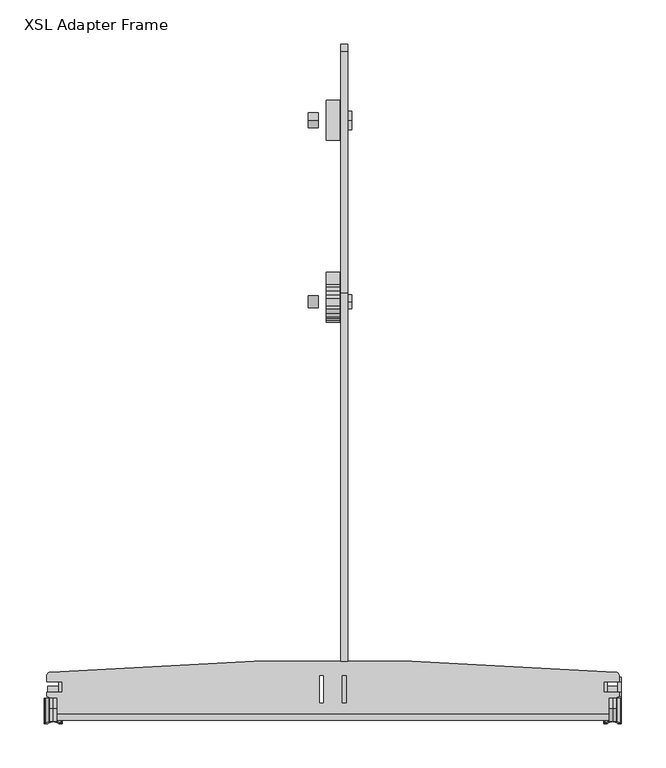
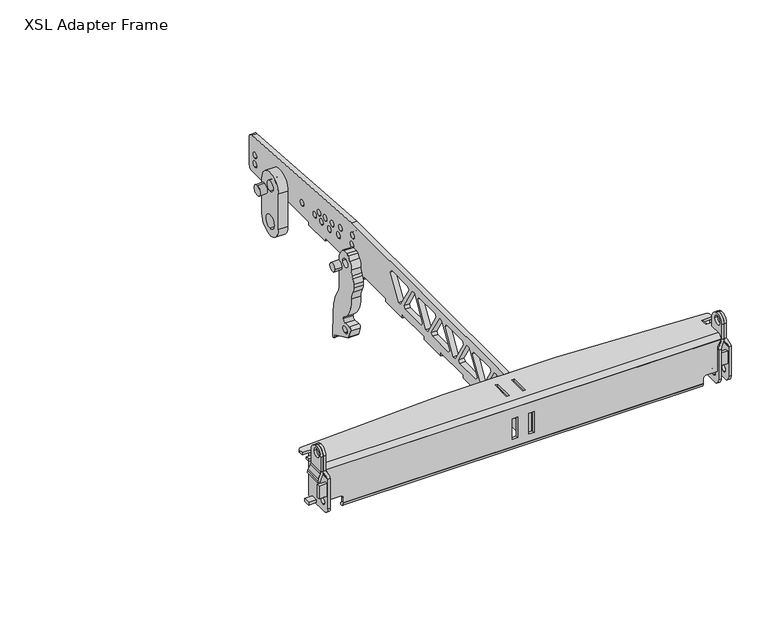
"""IFC4 building model written with IfcOpenShell, lengths in millimetres: proxy geometry, d&b SL-Series XSL SUB Adapter Frame : XSL Adapter Frame."""

from ifc_helpers import new_model, si_unit, point, frame, frame_2d, origin, place, context, project, spatial, polyline, circle_curve, ellipse_curve, trimmed, segment, composite_curve, outline, extrude, source, transform, mapped, element, save
from ifc_brep_helpers import plane_surface, cylinder_surface, revolved_surface, advanced_brep


def xsl_adapter_frame_a1c6265e(model_context):
    return source(origin(), model_context, "Body", "SolidModel", [
        extrude(outline(composite_curve([segment(polyline([(522.1611431, -64.7688422), (522.1611431, -113.8450091)]), True, "CONTINUOUS"), segment(trimmed(circle_curve(frame_2d((539.1610496, -113.7886351)), 17.0), [point((522.1611431, -113.8450091))], [point((525.2422531, -123.5491219))], True, "CARTESIAN"), True, "CONTINUOUS"), segment(trimmed(circle_curve(frame_2d((463.8357977, -166.6100931)), 75.0), [point((525.2422531, -123.5491219))], [point((538.8353854, -166.3613841))], False, "CARTESIAN"), True, "CONTINUOUS"), segment(polyline([(538.8353854, -166.3613841), (538.9661354, -205.7897873)]), True, "CONTINUOUS"), segment(trimmed(circle_curve(frame_2d((537.4661436, -205.7947615)), 1.5), [point((538.9661354, -205.7897873))], [point((535.9661519, -205.7997357))], False, "CARTESIAN"), True, "CONTINUOUS"), segment(trimmed(circle_curve(frame_2d((528.9661904, -205.8229485)), 7.0), [point((535.9661519, -205.7997357))], [point((531.9034639, -199.4690187))], True, "CARTESIAN"), True, "CONTINUOUS"), segment(polyline([(531.9034639, -199.4690187), (497.7396826, -183.6758992)]), True, "CONTINUOUS"), segment(trimmed(circle_curve(frame_2d((499.6279299, -179.59123)), 4.5), [point((497.7396826, -183.6758992))], [point((495.4044402, -181.1443348))], False, "CARTESIAN"), True, "CONTINUOUS"), segment(polyline([(495.4044402, -181.1443348), (490.5514544, -167.9471986)]), True, "CONTINUOUS"), segment(trimmed(circle_curve(frame_2d((493.8363909, -166.7392282)), 3.5), [point((490.5514544, -167.9471986))], [point((494.1773689, -163.2558772))], False, "CARTESIAN"), True, "CONTINUOUS"), segment(trimmed(circle_curve(frame_2d((513.661827, 35.7927497)), 200.0), [point((494.1773689, -163.2558772))], [point((505.6252672, -164.0457193))], True, "CARTESIAN"), True, "CONTINUOUS"), segment(trimmed(circle_curve(frame_2d((505.8121173, -159.3994749)), 4.65), [point((505.6252672, -164.0457193))], [point((510.4620917, -159.384055))], True, "CARTESIAN"), True, "CONTINUOUS"), segment(trimmed(circle_curve(frame_2d((505.8121173, -159.3994749)), 4.65), [point((510.4620917, -159.384055))], [point((509.2296311, -156.2462069))], True, "CARTESIAN"), True, "CONTINUOUS"), segment(trimmed(circle_curve(frame_2d((538.6101743, -116.3972456)), 49.509151), [point((509.2296311, -156.2462069))], [point((489.1613245, -113.9544411))], False, "CARTESIAN"), True, "CONTINUOUS"), segment(trimmed(circle_curve(frame_2d((468.6698234, -112.9421479)), 20.5164899), [point((489.1613245, -113.9544411))], [point((484.8265938, -100.2975788))], True, "CARTESIAN"), True, "CONTINUOUS"), segment(trimmed(circle_curve(frame_2d((498.8870491, -92.0549547)), 16.298382), [point((484.8265938, -100.2975788))], [point((482.5886671, -92.0549547))], False, "CARTESIAN"), True, "CONTINUOUS"), segment(polyline([(482.5886671, -92.0549547), (482.5886671, -85.9058453)]), True, "CONTINUOUS"), segment(trimmed(circle_curve(frame_2d((499.465337, -85.9058453)), 16.8766699), [point((482.5886671, -85.9058453))], [point((484.7514582, -77.6400267))], False, "CARTESIAN"), True, "CONTINUOUS"), segment(polyline([(484.7514582, -77.6400267), (486.8183449, -74.0324992)]), True, "CONTINUOUS"), segment(trimmed(circle_curve(frame_2d((472.5016463, -65.82993)), 16.5), [point((486.8183449, -74.0324992))], [point((489.0015556, -65.775214))], True, "CARTESIAN"), True, "CONTINUOUS"), segment(trimmed(circle_curve(frame_2d((505.7526919, -64.1121958)), 16.8334844), [point((489.0015556, -65.775214))], [point((492.7666259, -53.4010667))], False, "CARTESIAN"), True, "CONTINUOUS"), segment(polyline([(492.7666259, -53.4010667), (497.464977, -47.7048327)]), True, "CONTINUOUS"), segment(trimmed(circle_curve(frame_2d((501.3221897, -50.8863276)), 5.0), [point((497.464977, -47.7048327))], [point((501.3221897, -45.8863276))], False, "CARTESIAN"), True, "CONTINUOUS"), segment(polyline([(501.3221897, -45.8863276), (509.6051649, -45.8863276)]), True, "CONTINUOUS"), segment(trimmed(circle_curve(frame_2d((509.6051649, -50.8863276)), 5.0), [point((509.6051649, -45.8863276))], [point((513.4411924, -47.6793209))], False, "CARTESIAN"), True, "CONTINUOUS"), segment(polyline([(513.4411924, -47.6793209), (517.8898951, -53.00059)]), True, "CONTINUOUS"), segment(trimmed(circle_curve(frame_2d((503.8134235, -64.7688422)), 18.3477196), [point((517.8898951, -53.00059))], [point((522.1611431, -64.7688422))], False, "CARTESIAN"), True, "CONTINUOUS")], self_intersect=False), holes=[composite_curve([segment(trimmed(circle_curve(frame_2d((504.9715342, -175.4592689)), 5.0), [point((504.5627114, -170.4760105))], [point((505.380357, -180.4425272))], True, "CARTESIAN"), True, "CONTINUOUS"), segment(polyline([(505.380357, -180.4425272), (507.3736603, -180.2789981)]), True, "CONTINUOUS"), segment(trimmed(circle_curve(frame_2d((506.9648375, -175.2957398)), 5.0), [point((507.3736603, -180.2789981))], [point((506.5560147, -170.3124814))], True, "CARTESIAN"), True, "CONTINUOUS"), segment(polyline([(506.5560147, -170.3124814), (504.5627114, -170.4760105)]), True, "CONTINUOUS")], self_intersect=False), composite_curve([segment(trimmed(circle_curve(frame_2d((505.4954278, -63.9)), 6.7752341), [point((512.2706619, -63.9))], [point((498.7201938, -63.9))], True, "CARTESIAN"), True, "CONTINUOUS"), segment(trimmed(circle_curve(frame_2d((505.4954278, -63.9)), 6.7752341), [point((498.7201938, -63.9))], [point((512.2706619, -63.9))], True, "CARTESIAN"), True, "CONTINUOUS")], self_intersect=False)]), frame((-7.5, 0.0, 0.0), z_axis=(1.0, 0.0, 0.0), x_axis=(0.0, 1.0, 0.0)), (0.0, 0.0, 1.0), 15.0),
        extrude(outline(composite_curve([segment(polyline([(100.4954278, -9.2), (515.774794, -9.2), (788.0534796, -28.2395804)]), True, "CONTINUOUS"), segment(trimmed(circle_curve(frame_2d((787.4954278, -36.2200928)), 8.0), [point((788.0534796, -28.2395804))], [point((795.4954278, -36.2200928))], False, "CARTESIAN"), True, "CONTINUOUS"), segment(polyline([(795.4954278, -36.2200928), (795.4954278, -79.5)]), True, "CONTINUOUS"), segment(trimmed(circle_curve(frame_2d((787.4954278, -79.5)), 8.0), [point((795.4954278, -79.5))], [point((787.4954278, -87.5))], False, "CARTESIAN"), True, "CONTINUOUS"), segment(polyline([(787.4954278, -87.5), (759.4954278, -87.5), (759.4954278, -83.5), (692.9954278, -83.5), (692.9954278, -78.5), (632.9954278, -78.5), (632.9954278, -83.5), (587.9954278, -83.5), (587.9954278, -78.5), (527.9954278, -78.5), (527.9954278, -83.5), (482.9954278, -83.5), (482.9954278, -78.5), (422.9954278, -78.5), (422.9954278, -83.5), (377.9954278, -83.5), (377.9954278, -78.5), (317.9954278, -78.5), (317.9954278, -83.5), (272.9954278, -83.5), (272.9954278, -78.5), (212.9954278, -78.5), (212.9954278, -83.5), (167.9954278, -83.5), (167.9954278, -78.5), (107.9954278, -78.5), (107.9954278, -83.5), (40.9954278, -83.5), (40.9954278, -13.2), (100.4954278, -13.2), (100.4954278, -9.2)]), True, "CONTINUOUS")], self_intersect=False), holes=[polyline([(298.988688, -60.2952864), (276.7370031, -23.2), (271.7370031, -23.2), (249.4853181, -60.2952864), (252.6083314, -64.2), (295.8656748, -64.2), (298.988688, -60.2952864)]), polyline([(239.4853181, -64.2), (261.7370031, -27.1047136), (258.6139898, -23.2), (215.3566464, -23.2), (212.2336331, -27.1047136), (234.4853181, -64.2), (239.4853181, -64.2)]), polyline([(224.4853181, -60.2952864), (202.2336331, -23.2), (197.2336331, -23.2), (174.7789727, -60.6336624), (178.3453103, -64.2), (221.3623048, -64.2), (224.4853181, -60.2952864)]), polyline([(164.9819482, -64.2), (187.2336331, -27.1047136), (184.1106199, -23.2), (140.8532765, -23.2), (137.7302632, -27.1047136), (159.9819482, -64.2), (164.9819482, -64.2)]), polyline([(308.988688, -64.2), (313.988688, -64.2), (336.240373, -27.1047136), (333.1173597, -23.2), (289.8600163, -23.2), (286.7370031, -27.1047136), (308.988688, -64.2)]), polyline([(373.4920579, -60.2952864), (351.240373, -23.2), (346.240373, -23.2), (323.988688, -60.2952864), (327.1117013, -64.2), (370.3690447, -64.2), (373.4920579, -60.2952864)]), polyline([(383.4920579, -64.2), (388.4920579, -64.2), (410.7437429, -27.1047136), (407.6207296, -23.2), (364.3633862, -23.2), (361.240373, -27.1047136), (383.4920579, -64.2)]), polyline([(122.7302632, -23.2), (100.4785783, -60.2952864), (103.6015915, -64.2), (146.8589349, -64.2), (149.9819482, -60.2952864), (127.7302632, -23.2), (122.7302632, -23.2)]), polyline([(90.4785783, -64.2), (112.7302632, -27.1047136), (109.60725, -23.2), (66.3499066, -23.2), (63.2268933, -27.1047136), (85.4785783, -64.2), (90.4785783, -64.2)]), polyline([(48.2268933, -64.2), (72.355565, -64.2), (75.4785783, -60.2952864), (53.2268933, -23.2), (48.2268933, -23.2), (48.2268933, -64.2)]), composite_curve([segment(trimmed(circle_curve(frame_2d((651.0293359, -58.0)), 4.75), [point((651.0293359, -62.75))], [point((651.0293359, -53.25))], True, "CARTESIAN"), True, "CONTINUOUS"), segment(trimmed(circle_curve(frame_2d((651.0293359, -58.0)), 4.75), [point((651.0293359, -53.25))], [point((651.0293359, -62.75))], True, "CARTESIAN"), True, "CONTINUOUS")], self_intersect=False), composite_curve([segment(trimmed(circle_curve(frame_2d((616.7137327, -56.9749243)), 4.75), [point((616.7137327, -61.7249243))], [point((616.7137327, -52.2249243))], True, "CARTESIAN"), True, "CONTINUOUS"), segment(trimmed(circle_curve(frame_2d((616.7137327, -56.9749243)), 4.75), [point((616.7137327, -52.2249243))], [point((616.7137327, -61.7249243))], True, "CARTESIAN"), True, "CONTINUOUS")], self_intersect=False), composite_curve([segment(trimmed(circle_curve(frame_2d((604.7954278, -46.3)), 4.75), [point((604.7954278, -51.05))], [point((604.7954278, -41.55))], True, "CARTESIAN"), True, "CONTINUOUS"), segment(trimmed(circle_curve(frame_2d((604.7954278, -46.3)), 4.75), [point((604.7954278, -41.55))], [point((604.7954278, -51.05))], True, "CARTESIAN"), True, "CONTINUOUS")], self_intersect=False), composite_curve([segment(trimmed(circle_curve(frame_2d((598.3884097, -57.4956118)), 4.75), [point((598.3884097, -62.2456118))], [point((598.3884097, -52.7456118))], True, "CARTESIAN"), True, "CONTINUOUS"), segment(trimmed(circle_curve(frame_2d((598.3884097, -57.4956118)), 4.75), [point((598.3884097, -52.7456118))], [point((598.3884097, -62.2456118))], True, "CARTESIAN"), True, "CONTINUOUS")], self_intersect=False), composite_curve([segment(trimmed(circle_curve(frame_2d((588.3954278, -45.0)), 4.75), [point((588.3954278, -49.75))], [point((588.3954278, -40.25))], True, "CARTESIAN"), True, "CONTINUOUS"), segment(trimmed(circle_curve(frame_2d((588.3954278, -45.0)), 4.75), [point((588.3954278, -40.25))], [point((588.3954278, -49.75))], True, "CARTESIAN"), True, "CONTINUOUS")], self_intersect=False), composite_curve([segment(trimmed(circle_curve(frame_2d((577.0889911, -56.7735597)), 4.75), [point((577.0889911, -61.5235597))], [point((577.0889911, -52.0235597))], True, "CARTESIAN"), True, "CONTINUOUS"), segment(trimmed(circle_curve(frame_2d((577.0889911, -56.7735597)), 4.75), [point((577.0889911, -52.0235597))], [point((577.0889911, -61.5235597))], True, "CARTESIAN"), True, "CONTINUOUS")], self_intersect=False), composite_curve([segment(trimmed(circle_curve(frame_2d((569.2954278, -42.8)), 4.75), [point((569.2954278, -47.55))], [point((569.2954278, -38.05))], True, "CARTESIAN"), True, "CONTINUOUS"), segment(trimmed(circle_curve(frame_2d((569.2954278, -42.8)), 4.75), [point((569.2954278, -38.05))], [point((569.2954278, -47.55))], True, "CARTESIAN"), True, "CONTINUOUS")], self_intersect=False), composite_curve([segment(trimmed(circle_curve(frame_2d((552.2758045, -51.4682297)), 4.75), [point((552.2758045, -56.2182297))], [point((552.2758045, -46.7182297))], True, "CARTESIAN"), True, "CONTINUOUS"), segment(trimmed(circle_curve(frame_2d((552.2758045, -51.4682297)), 4.75), [point((552.2758045, -46.7182297))], [point((552.2758045, -56.2182297))], True, "CARTESIAN"), True, "CONTINUOUS")], self_intersect=False), composite_curve([segment(trimmed(circle_curve(frame_2d((546.8954278, -36.4)), 4.75), [point((546.8954278, -41.15))], [point((546.8954278, -31.65))], True, "CARTESIAN"), True, "CONTINUOUS"), segment(trimmed(circle_curve(frame_2d((546.8954278, -36.4)), 4.75), [point((546.8954278, -31.65))], [point((546.8954278, -41.15))], True, "CARTESIAN"), True, "CONTINUOUS")], self_intersect=False), composite_curve([segment(trimmed(circle_curve(frame_2d((513.8954278, -29.2)), 4.75), [point((513.8954278, -33.95))], [point((513.8954278, -24.45))], True, "CARTESIAN"), True, "CONTINUOUS"), segment(trimmed(circle_curve(frame_2d((513.8954278, -29.2)), 4.75), [point((513.8954278, -24.45))], [point((513.8954278, -33.95))], True, "CARTESIAN"), True, "CONTINUOUS")], self_intersect=False), composite_curve([segment(trimmed(circle_curve(frame_2d((515.6095359, -45.1079173)), 4.75), [point((515.6095359, -49.8579173))], [point((515.6095359, -40.3579173))], True, "CARTESIAN"), True, "CONTINUOUS"), segment(trimmed(circle_curve(frame_2d((515.6095359, -45.1079173)), 4.75), [point((515.6095359, -40.3579173))], [point((515.6095359, -49.8579173))], True, "CARTESIAN"), True, "CONTINUOUS")], self_intersect=False), composite_curve([segment(trimmed(circle_curve(frame_2d((779.4954278, -57.0)), 4.75), [point((779.4954278, -61.75))], [point((779.4954278, -52.25))], True, "CARTESIAN"), True, "CONTINUOUS"), segment(trimmed(circle_curve(frame_2d((779.4954278, -57.0)), 4.75), [point((779.4954278, -52.25))], [point((779.4954278, -61.75))], True, "CARTESIAN"), True, "CONTINUOUS")], self_intersect=False), composite_curve([segment(trimmed(circle_curve(frame_2d((779.4954278, -71.35)), 4.75), [point((779.4954278, -76.1))], [point((779.4954278, -66.6))], True, "CARTESIAN"), True, "CONTINUOUS"), segment(trimmed(circle_curve(frame_2d((779.4954278, -71.35)), 4.75), [point((779.4954278, -66.6))], [point((779.4954278, -76.1))], True, "CARTESIAN"), True, "CONTINUOUS")], self_intersect=False)]), frame((8.75, 0.0, 0.0), z_axis=(1.0, 0.0, 0.0), x_axis=(0.0, 1.0, 0.0)), (0.0, 0.0, 1.0), 8.0),
        extrude(outline(composite_curve([segment(trimmed(circle_curve(frame_2d((709.9954278, -60.0)), 8.25), [point((709.9954278, -68.25))], [point((709.9954278, -51.75))], False, "CARTESIAN"), True, "CONTINUOUS"), segment(trimmed(circle_curve(frame_2d((709.9954278, -60.0)), 8.25), [point((709.9954278, -51.75))], [point((709.9954278, -68.25))], False, "CARTESIAN"), True, "CONTINUOUS")], self_intersect=False)), frame((-27.75, 0.0, 0.0), z_axis=(1.0, 0.0, 0.0), x_axis=(0.0, 1.0, 0.0)), (0.0, 0.0, 1.0), 11.0),
        extrude(outline(composite_curve([segment(trimmed(circle_curve(frame_2d((505.4954278, -63.9)), 6.8224623), [point((498.6729655, -63.9))], [point((512.3178901, -63.9))], False, "CARTESIAN"), True, "CONTINUOUS"), segment(trimmed(circle_curve(frame_2d((505.4954278, -63.9)), 6.8224623), [point((512.3178901, -63.9))], [point((498.6729655, -63.9))], False, "CARTESIAN"), True, "CONTINUOUS")], self_intersect=False)), frame((-27.75, 0.0, 0.0), z_axis=(1.0, 0.0, 0.0), x_axis=(0.0, 1.0, 0.0)), (0.0, 0.0, 1.0), 11.0),
        extrude(outline(composite_curve([segment(trimmed(circle_curve(frame_2d((709.9954278, -60.0)), 10.5), [point((709.9954278, -70.5))], [point((709.9954278, -49.5))], False, "CARTESIAN"), True, "CONTINUOUS"), segment(trimmed(circle_curve(frame_2d((709.9954278, -60.0)), 10.5), [point((709.9954278, -49.5))], [point((709.9954278, -70.5))], False, "CARTESIAN"), True, "CONTINUOUS")], self_intersect=False)), frame((16.75, 0.0, 0.0), z_axis=(1.0, 0.0, 0.0), x_axis=(0.0, 1.0, 0.0)), (0.0, 0.0, 1.0), 4.5205517),
        extrude(outline(composite_curve([segment(trimmed(circle_curve(frame_2d((505.4954278, -63.9)), 7.9916388), [point((505.4954278, -71.8916388))], [point((505.4954278, -55.9083612))], False, "CARTESIAN"), True, "CONTINUOUS"), segment(trimmed(circle_curve(frame_2d((505.4954278, -63.9)), 7.9916388), [point((505.4954278, -55.9083612))], [point((505.4954278, -71.8916388))], False, "CARTESIAN"), True, "CONTINUOUS")], self_intersect=False)), frame((16.75, 0.0, 0.0), z_axis=(1.0, 0.0, 0.0), x_axis=(0.0, 1.0, 0.0)), (0.0, 0.0, 1.0), 4.5205517),
        extrude(outline(composite_curve([segment(polyline([(33.9954278, -80.5), (37.9954278, -80.5)]), True, "CONTINUOUS"), segment(trimmed(circle_curve(frame_2d((41.0178597, -80.5)), 3.0224319), [point((37.9954278, -80.5))], [point((41.0178597, -83.5224319))], True, "CARTESIAN"), True, "CONTINUOUS"), segment(polyline([(41.0178597, -83.5224319), (41.0178597, -87.5224319)]), True, "CONTINUOUS"), segment(trimmed(circle_curve(frame_2d((41.0178597, -80.5)), 7.0224319), [point((41.0178597, -87.5224319))], [point((33.9954278, -80.5))], False, "CARTESIAN"), True, "CONTINUOUS")], self_intersect=False)), frame((-283.0, 0.0, 0.0), z_axis=(1.0, 0.0, 0.0), x_axis=(0.0, 1.0, 0.0)), (0.0, 0.0, 1.0), 566.0),
        extrude(outline(composite_curve([segment(polyline([(-16.2224319, 310.4998), (-16.2224319, -310.4998)]), True, "CONTINUOUS"), segment(trimmed(circle_curve(frame_2d((-16.2224319, -306.4998)), 4.0), [point((-16.2224319, -310.4998))], [point((-18.2224319, -309.9639016))], False, "CARTESIAN"), True, "CONTINUOUS"), segment(polyline([(-18.2224319, -309.9639016), (-25.7412266, -305.6229234)]), True, "CONTINUOUS"), segment(trimmed(circle_curve(frame_2d((-28.0660086, -309.6495639)), 4.6495639), [point((-25.7412266, -305.6229234))], [point((-28.0660086, -305.0))], True, "CARTESIAN"), True, "CONTINUOUS"), segment(polyline([(-28.0660086, -305.0), (-67.5, -305.0), (-67.5, -288.0)]), True, "CONTINUOUS"), segment(trimmed(circle_curve(frame_2d((-72.5, -288.0)), 5.0), [point((-67.5, -288.0))], [point((-72.5, -283.0))], True, "CARTESIAN"), True, "CONTINUOUS"), segment(polyline([(-72.5, -283.0), (-80.5, -283.0), (-80.5, 283.0), (-72.5, 283.0)]), True, "CONTINUOUS"), segment(trimmed(circle_curve(frame_2d((-72.5, 288.0)), 5.0), [point((-72.5, 283.0))], [point((-67.5, 288.0))], True, "CARTESIAN"), True, "CONTINUOUS"), segment(polyline([(-67.5, 288.0), (-67.5, 305.0), (-28.0660086, 305.0)]), True, "CONTINUOUS"), segment(trimmed(circle_curve(frame_2d((-28.0660086, 309.6495639)), 4.6495639), [point((-28.0660086, 305.0))], [point((-25.7412266, 305.6229234))], True, "CARTESIAN"), True, "CONTINUOUS"), segment(polyline([(-25.7412266, 305.6229234), (-18.2224319, 309.9639016)]), True, "CONTINUOUS"), segment(trimmed(circle_curve(frame_2d((-16.2224319, 306.4998)), 4.0), [point((-18.2224319, 309.9639016))], [point((-16.2224319, 310.4998))], False, "CARTESIAN"), True, "CONTINUOUS")], self_intersect=False), holes=[polyline([(-33.7, -8.5), (-68.0, -8.5), (-68.0, -17.0), (-33.7, -17.0), (-33.7, -8.5)]), polyline([(-33.7, 17.0), (-68.0, 17.0), (-68.0, 8.5), (-33.7, 8.5), (-33.7, 17.0)])]), frame((0.0, 33.9954278, 0.0), z_axis=(0.0, 1.0, 0.0), x_axis=(0.0, 0.0, 1.0)), (0.0, 0.0, 1.0), 4.0),
        advanced_brep(
        [(309.0, 30.4954278, -30.2320508), (310.3811978, 31.2292248, -26.5), (313.7942286, 32.3915541, -20.5884573), (315.0002, 33.1954278, -16.5), (311.0, 33.1954278, -16.5), (310.330127, 32.7847947, -18.5884573), (306.5733203, 31.491841, -25.1643487), (305.4838971, 30.9336589, -28.0032321), (305.0, 30.4954278, -30.2320508), (309.0, 59.0954278, -30.2320508), (305.0, 59.0954278, -30.2320508), (305.4838971, 59.0954278, -28.0032321), (306.5733203, 59.0954278, -25.1643487), (310.330127, 59.0954278, -18.5884573), (311.0, 59.0954278, -16.5), (315.0002, 59.0954278, -16.5), (313.7942286, 59.0954278, -20.5884573), (310.3811978, 59.0954278, -26.5)],
        [
            (0, 1),
            (1, 2),
            (2, 3, ellipse_curve(frame((305.9250899, 33.2848492, -16.0452079), z_axis=(0.0, -0.9812132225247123, 0.19292644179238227), x_axis=(0.0, -0.19292644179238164, -0.9812132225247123)), 9.2604732, 9.0864987)),
            (3, 4),
            (4, 5, ellipse_curve(frame((305.7335982, 33.301119, -15.9624604), z_axis=(0.0, 0.9812132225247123, -0.19292644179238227), x_axis=(0.0, 0.19292644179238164, 0.9812132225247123)), 5.3951208, 5.2937639)),
            (5, 6),
            (6, 7, ellipse_curve(frame((315.2562326, 30.5164966, -30.1248964), z_axis=(0.0, -0.9812132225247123, 0.19292644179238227), x_axis=(0.0, -0.19292644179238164, -0.9812132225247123)), 10.1914648, 10.0)),
            (7, 8),
            (8, 0),
            (9, 10),
            (10, 11),
            (11, 12, circle_curve(frame((315.2562326, 59.0954278, -30.1248964), z_axis=(0.0, 1.0, 0.0), x_axis=(1.0, 0.0, 0.0)), 10.0)),
            (12, 13),
            (13, 14, circle_curve(frame((305.7335982, 59.0954278, -15.9624604), z_axis=(0.0, -1.0, 0.0), x_axis=(1.0, 0.0, 0.0)), 5.2937639)),
            (14, 15),
            (15, 16, circle_curve(frame((305.9250899, 59.0954278, -16.0452079), z_axis=(0.0, 1.0, 0.0), x_axis=(1.0, 0.0, 0.0)), 9.0864987)),
            (16, 17),
            (17, 9),
            (17, 1),
            (0, 9),
            (16, 2),
            (15, 3),
            (13, 5),
            (4, 14),
            (12, 6),
            (10, 8),
            (7, 11),
        ],
        [
            plane_surface(frame((325.0, 30.4954278, -30.2320508), z_axis=(0.0, -0.9812132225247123, 0.19292644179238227), x_axis=(-1.0, 0.0, 0.0))),
            plane_surface(frame((310.3811978, 59.0954278, -26.5), z_axis=(0.0, 1.0, 0.0), x_axis=(-0.34708382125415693, 0.0, -0.9378341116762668))),
            plane_surface(frame((309.0, 30.4954278, -30.2320508), z_axis=(0.9378341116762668, 0.0, -0.34708382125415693), x_axis=(0.0, 1.0, 0.0))),
            plane_surface(frame((310.3811978, 30.4954278, -26.5), z_axis=(0.866025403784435, 0.0, -0.5000000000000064), x_axis=(0.0, 1.0, 0.0))),
            cylinder_surface(frame((305.9250899, 59.0954278, -16.0452079), z_axis=(0.0, -1.0, 0.0), x_axis=(1.0, 0.0, 0.0)), 9.0864987),
            revolved_surface(polyline([(311.0273621, 59.0954278, -15.9624604), (311.0273621, 32.26025754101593, -15.9624604)]), (305.7335982, 59.0954278, -15.9624604), (0.0, 1.0, 0.0)),
            plane_surface(frame((310.330127, 30.4954278, -18.5884573), z_axis=(-0.8682912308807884, 0.0, 0.49605477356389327), x_axis=(0.0, 1.0, 0.0))),
            plane_surface(frame((305.4838971, 30.4954278, -28.0032321), z_axis=(-0.9772335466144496, 0.0, 0.21216643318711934), x_axis=(0.0, 1.0, 0.0))),
            plane_surface(frame((305.0, 30.4954278, -30.2320508), z_axis=(0.0, 0.0, -1.0), x_axis=(0.0, 1.0, 0.0))),
            cylinder_surface(frame((315.2562326, 59.0954278, -30.1248964), z_axis=(0.0, -1.0, 0.0), x_axis=(1.0, 0.0, 0.0)), 10.0),
            plane_surface(frame((315.0002, 30.4954278, -16.5), z_axis=(0.0, 0.0, 1.0), x_axis=(0.0, 1.0, 0.0))),
        ],
        [
            (0, [[1, 2, 3, 4, 5, 6, 7, 8, 9]]),
            (1, [[10, 11, 12, 13, 14, 15, 16, 17, 18]]),
            (2, [[-18, 19, -1, 20]]),
            (3, [[-17, 21, -2, -19]]),
            (4, [[-16, 22, -3, -21]]),
            (5, [[-14, 23, -5, 24]]),
            (6, [[-13, 25, -6, -23]]),
            (7, [[-11, 26, -8, 27]]),
            (8, [[-10, -20, -9, -26]]),
            (9, [[-12, -27, -7, -25]]),
            (10, [[-15, -24, -4, -22]]),
        ],
    ),
        advanced_brep(
        [(319.6188022, 31.2292248, -26.5), (321.0, 30.4954278, -30.2320508), (325.0, 30.4954278, -30.2320508), (324.5161029, 30.9336589, -28.0032321), (323.4266797, 31.491841, -25.1643487), (319.669873, 32.7847947, -18.5884573), (319.0, 33.1954278, -16.5), (314.9998, 33.1954278, -16.5), (316.2057714, 32.3915541, -20.5884573), (321.0, 59.0954278, -30.2320508), (319.6188022, 59.0954278, -26.5), (316.2057714, 59.0954278, -20.5884573), (314.9998, 59.0954278, -16.5), (319.0, 59.0954278, -16.5), (319.669873, 59.0954278, -18.5884573), (323.4266797, 59.0954278, -25.1643487), (324.5161029, 59.0954278, -28.0032321), (325.0, 59.0954278, -30.2320508)],
        [
            (0, 1),
            (1, 2),
            (2, 3),
            (3, 4, ellipse_curve(frame((314.7437674, 30.5164966, -30.1248964), z_axis=(0.0, -0.9812132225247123, 0.19292644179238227), x_axis=(0.0, -0.19292644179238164, -0.9812132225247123)), 10.1914648, 10.0)),
            (4, 5),
            (5, 6, ellipse_curve(frame((324.2664018, 33.301119, -15.9624604), z_axis=(0.0, 0.9812132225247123, -0.19292644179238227), x_axis=(0.0, 0.19292644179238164, 0.9812132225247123)), 5.3951208, 5.2937639)),
            (6, 7),
            (7, 8, ellipse_curve(frame((324.0749101, 33.2848492, -16.0452079), z_axis=(0.0, -0.9812132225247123, 0.19292644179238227), x_axis=(0.0, -0.19292644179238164, -0.9812132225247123)), 9.2604732, 9.0864987)),
            (8, 0),
            (9, 10),
            (10, 11),
            (11, 12, circle_curve(frame((324.0749101, 59.0954278, -16.0452079), z_axis=(0.0, 1.0, 0.0), x_axis=(-1.0, 0.0, 0.0)), 9.0864987)),
            (12, 13),
            (13, 14, circle_curve(frame((324.2664018, 59.0954278, -15.9624604), z_axis=(0.0, -1.0, 0.0), x_axis=(-1.0, 0.0, 0.0)), 5.2937639)),
            (14, 15),
            (15, 16, circle_curve(frame((314.7437674, 59.0954278, -30.1248964), z_axis=(0.0, 1.0, 0.0), x_axis=(-1.0, 0.0, 0.0)), 10.0)),
            (16, 17),
            (17, 9),
            (9, 1),
            (0, 10),
            (8, 11),
            (7, 12),
            (13, 6),
            (5, 14),
            (4, 15),
            (16, 3),
            (2, 17),
        ],
        [
            plane_surface(frame((325.0, 30.4954278, -30.2320508), z_axis=(0.0, -0.9812132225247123, 0.19292644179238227), x_axis=(-1.0, 0.0, 0.0))),
            plane_surface(frame((325.0, 59.0954278, -30.2320508), z_axis=(0.0, 1.0, 0.0), x_axis=(-1.0, 0.0, 0.0))),
            plane_surface(frame((319.6188022, 30.4954278, -26.5), z_axis=(-0.9378341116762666, 0.0, -0.34708382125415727), x_axis=(0.0, 1.0, 0.0))),
            plane_surface(frame((316.2057714, 30.4954278, -20.5884573), z_axis=(-0.8660254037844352, 0.0, -0.5000000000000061), x_axis=(0.0, 1.0, 0.0))),
            cylinder_surface(frame((324.0749101, 59.0954278, -16.0452079), z_axis=(0.0, -1.0, 0.0), x_axis=(-1.0, 0.0, 0.0)), 9.0864987),
            revolved_surface(polyline([(318.9726379, 59.0954278, -15.9624604), (318.9726379, 32.26025754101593, -15.9624604)]), (324.2664018, 59.0954278, -15.9624604), (0.0, 1.0, 0.0)),
            plane_surface(frame((323.4266797, 30.4954278, -25.1643487), z_axis=(0.8682912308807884, 0.0, 0.49605477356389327), x_axis=(0.0, 1.0, 0.0))),
            plane_surface(frame((325.0, 30.4954278, -30.2320508), z_axis=(0.9772335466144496, 0.0, 0.21216643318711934), x_axis=(0.0, 1.0, 0.0))),
            plane_surface(frame((321.0, 30.4954278, -30.2320508), z_axis=(0.0, 0.0, -1.0), x_axis=(0.0, 1.0, 0.0))),
            cylinder_surface(frame((314.7437674, 59.0954278, -30.1248964), z_axis=(0.0, -1.0, 0.0), x_axis=(-1.0, 0.0, 0.0)), 10.0),
            plane_surface(frame((319.0, 30.4954278, -16.5), z_axis=(0.0, 0.0, 1.0), x_axis=(0.0, 1.0, 0.0))),
        ],
        [
            (0, [[1, 2, 3, 4, 5, 6, 7, 8, 9]]),
            (1, [[10, 11, 12, 13, 14, 15, 16, 17, 18]]),
            (2, [[-10, 19, -1, 20]]),
            (3, [[-11, -20, -9, 21]]),
            (4, [[-12, -21, -8, 22]]),
            (5, [[-14, 23, -6, 24]]),
            (6, [[-15, -24, -5, 25]]),
            (7, [[-17, 26, -3, 27]]),
            (8, [[-18, -27, -2, -19]]),
            (9, [[-16, -25, -4, -26]]),
            (10, [[-13, -22, -7, -23]]),
        ],
    ),
        extrude(outline(polyline([(308.9998, 33.7454278), (308.9998, 38.2454278), (321.0, 38.2454278), (321.0, 33.7454278), (308.9998, 33.7454278)])), frame((0.0, 0.0, -60.25), z_axis=(0.0, 0.0, 1.0), x_axis=(1.0, 0.0, 0.0)), (0.0, 0.0, 1.0), 21.05),
        extrude(outline(polyline([(308.9998, 61.7454278), (308.9998, 72.4954278), (321.0, 72.4954278), (321.0, 61.7454278), (308.9998, 61.7454278)])), frame((0.0, 0.0, -87.75), z_axis=(0.0, 0.0, 1.0), x_axis=(1.0, 0.0, 0.0)), (0.0, 0.0, 1.0), 4.5),
        extrude(outline(composite_curve([segment(polyline([(30.4954278, -79.5), (30.4954278, -30.2320508), (59.0954278, -30.2320508), (59.0954278, -31.5)]), True, "CONTINUOUS"), segment(trimmed(circle_curve(frame_2d((60.0954278, -31.5)), 1.0), [point((59.0954278, -31.5))], [point((61.0954278, -31.5))], True, "CARTESIAN"), True, "CONTINUOUS"), segment(polyline([(61.0954278, -31.5), (61.0954278, -13.2), (66.0954278, -13.2), (66.0954278, -11.2), (77.0954278, -11.2), (77.0954278, -13.2), (82.4954278, -13.2), (82.4954278, -87.5950124)]), True, "CONTINUOUS"), segment(trimmed(circle_curve(frame_2d((81.4898861, -87.5950124)), 1.0055417), [point((82.4954278, -87.5950124))], [point((81.4898861, -88.6005542))], False, "CARTESIAN"), True, "CONTINUOUS"), segment(polyline([(81.4898861, -88.6005542), (72.4954278, -89.5), (40.4954278, -89.5)]), True, "CONTINUOUS"), segment(trimmed(circle_curve(frame_2d((40.4954278, -79.5)), 10.0), [point((40.4954278, -89.5))], [point((30.4954278, -79.5))], False, "CARTESIAN"), True, "CONTINUOUS")], self_intersect=False), holes=[polyline([(33.7454278, -39.2), (33.7454278, -60.25), (38.2454278, -60.25), (38.2454278, -39.2), (33.7454278, -39.2)]), polyline([(61.7454278, -83.25), (61.7454278, -87.75), (72.4954278, -87.75), (72.4954278, -83.25), (61.7454278, -83.25)]), composite_curve([segment(trimmed(circle_curve(frame_2d((43.9954278, -74.5)), 4.65), [point((43.9954278, -79.15))], [point((43.9954278, -69.85))], True, "CARTESIAN"), True, "CONTINUOUS"), segment(trimmed(circle_curve(frame_2d((43.9954278, -74.5)), 4.65), [point((43.9954278, -69.85))], [point((43.9954278, -79.15))], True, "CARTESIAN"), True, "CONTINUOUS")], self_intersect=False)]), frame((305.0, 0.0, 0.0), z_axis=(1.0, 0.0, 0.0), x_axis=(0.0, 1.0, 0.0)), (0.0, 0.0, 1.0), 4.0),
        extrude(outline(composite_curve([segment(polyline([(59.0954278, 5.2), (59.0954278, -16.5), (33.1954278, -16.5), (33.1954278, 8.4787193)]), True, "CONTINUOUS"), segment(trimmed(circle_curve(frame_2d((44.8954278, 8.4787193)), 11.7), [point((33.1954278, 8.4787193))], [point((47.9924867, 19.7613708))], False, "CARTESIAN"), True, "CONTINUOUS"), segment(trimmed(circle_curve(frame_2d((43.9954278, 5.2)), 15.1), [point((47.9924867, 19.7613708))], [point((59.0954278, 5.2))], False, "CARTESIAN"), True, "CONTINUOUS")], self_intersect=False), holes=[composite_curve([segment(trimmed(circle_curve(frame_2d((43.9954278, 9.5)), 6.9036339), [point((50.8990617, 9.5))], [point((37.091794, 9.5))], True, "CARTESIAN"), True, "CONTINUOUS"), segment(trimmed(circle_curve(frame_2d((43.9954278, 9.5)), 6.9036339), [point((37.091794, 9.5))], [point((50.8990617, 9.5))], True, "CARTESIAN"), True, "CONTINUOUS")], self_intersect=False)]), frame((311.0, 0.0, 0.0), z_axis=(1.0, 0.0, 0.0), x_axis=(0.0, 1.0, 0.0)), (0.0, 0.0, 1.0), 4.0),
        extrude(outline(composite_curve([segment(polyline([(59.0954278, 5.2), (59.0954278, -16.5), (33.1954278, -16.5), (33.1954278, 8.4787193)]), True, "CONTINUOUS"), segment(trimmed(circle_curve(frame_2d((44.8954278, 8.4787193)), 11.7), [point((33.1954278, 8.4787193))], [point((47.9924867, 19.7613708))], False, "CARTESIAN"), True, "CONTINUOUS"), segment(trimmed(circle_curve(frame_2d((43.9954278, 5.2)), 15.1), [point((47.9924867, 19.7613708))], [point((59.0954278, 5.2))], False, "CARTESIAN"), True, "CONTINUOUS")], self_intersect=False), holes=[composite_curve([segment(trimmed(circle_curve(frame_2d((43.9954278, 9.5)), 6.9036339), [point((50.8990617, 9.5))], [point((37.091794, 9.5))], True, "CARTESIAN"), True, "CONTINUOUS"), segment(trimmed(circle_curve(frame_2d((43.9954278, 9.5)), 6.9036339), [point((37.091794, 9.5))], [point((50.8990617, 9.5))], True, "CARTESIAN"), True, "CONTINUOUS")], self_intersect=False)]), frame((315.0, 0.0, 0.0), z_axis=(1.0, 0.0, 0.0), x_axis=(0.0, 1.0, 0.0)), (0.0, 0.0, 1.0), 4.0),
        extrude(outline(composite_curve([segment(polyline([(30.4954278, -79.5), (30.4954278, -30.2320508), (59.0954278, -30.2320508), (59.0954278, -31.5)]), True, "CONTINUOUS"), segment(trimmed(circle_curve(frame_2d((60.0954278, -31.5)), 1.0), [point((59.0954278, -31.5))], [point((61.0954278, -31.5))], True, "CARTESIAN"), True, "CONTINUOUS"), segment(polyline([(61.0954278, -31.5), (61.0954278, -13.2), (66.0954278, -13.2), (66.0954278, -11.2), (77.0954278, -11.2), (77.0954278, -13.2), (82.4954278, -13.2), (82.4954278, -87.5950124)]), True, "CONTINUOUS"), segment(trimmed(circle_curve(frame_2d((81.4898861, -87.5950124)), 1.0055417), [point((82.4954278, -87.5950124))], [point((81.4898861, -88.6005542))], False, "CARTESIAN"), True, "CONTINUOUS"), segment(polyline([(81.4898861, -88.6005542), (72.4954278, -89.5), (40.4954278, -89.5)]), True, "CONTINUOUS"), segment(trimmed(circle_curve(frame_2d((40.4954278, -79.5)), 10.0), [point((40.4954278, -89.5))], [point((30.4954278, -79.5))], False, "CARTESIAN"), True, "CONTINUOUS")], self_intersect=False), holes=[polyline([(33.7454278, -39.2), (33.7454278, -60.25), (38.2454278, -60.25), (38.2454278, -39.2), (33.7454278, -39.2)]), polyline([(61.7454278, -83.25), (61.7454278, -87.75), (72.4954278, -87.75), (72.4954278, -83.25), (61.7454278, -83.25)]), composite_curve([segment(trimmed(circle_curve(frame_2d((43.9954278, -74.5)), 4.65), [point((43.9954278, -79.15))], [point((43.9954278, -69.85))], True, "CARTESIAN"), True, "CONTINUOUS"), segment(trimmed(circle_curve(frame_2d((43.9954278, -74.5)), 4.65), [point((43.9954278, -69.85))], [point((43.9954278, -79.15))], True, "CARTESIAN"), True, "CONTINUOUS")], self_intersect=False)]), frame((321.0, 0.0, 0.0), z_axis=(1.0, 0.0, 0.0), x_axis=(0.0, 1.0, 0.0)), (0.0, 0.0, 1.0), 4.0),
        extrude(outline(composite_curve([segment(trimmed(circle_curve(frame_2d((40.9954278, -16.2224319)), 7.0224319), [point((33.972996, -16.2224319))], [point((40.9954278, -9.2))], False, "CARTESIAN"), True, "CONTINUOUS"), segment(polyline([(40.9954278, -9.2), (40.9954278, -13.2)]), True, "CONTINUOUS"), segment(trimmed(circle_curve(frame_2d((40.9954278, -16.2224319)), 3.0224319), [point((40.9954278, -13.2))], [point((37.972996, -16.2224319))], True, "CARTESIAN"), True, "CONTINUOUS"), segment(polyline([(37.972996, -16.2224319), (33.972996, -16.2224319)]), True, "CONTINUOUS")], self_intersect=False)), frame((-310.4998, 0.0, 0.0), z_axis=(1.0, 0.0, 0.0), x_axis=(0.0, 1.0, 0.0)), (0.0, 0.0, 1.0), 620.9998),
        extrude(outline(composite_curve([segment(trimmed(circle_curve(frame_2d((317.8, 83.7801172)), 4.7), [point((318.045979, 88.473676))], [point((322.5, 83.7801172))], False, "CARTESIAN"), True, "CONTINUOUS"), segment(polyline([(322.5, 83.7801172), (322.5, 77.3454278), (304.9998, 77.3454278), (304.9998, 65.8454278), (322.5, 65.8454278), (322.5, 61.0954278), (319.0, 59.3454278), (310.4998, 59.3454278), (310.4998, 40.9954278), (-310.4998, 40.9954278), (-310.4998, 59.3454278), (-319.0, 59.3454278), (-322.5, 61.0954278), (-322.5, 65.8454278), (-304.9998, 65.8454278), (-304.9998, 77.3454278), (-322.5, 77.3454278), (-322.5, 83.7801172)]), True, "CONTINUOUS"), segment(trimmed(circle_curve(frame_2d((-317.8, 83.7801172)), 4.7), [point((-322.5, 83.7801172))], [point((-318.045979, 88.473676))], False, "CARTESIAN"), True, "CONTINUOUS"), segment(polyline([(-318.045979, 88.473676), (-88.6572894, 100.4954278), (88.6572894, 100.4954278), (318.045979, 88.473676)]), True, "CONTINUOUS")], self_intersect=False), holes=[polyline([(-10.75, 84.4954278), (-14.75, 84.4954278), (-14.75, 53.9954278), (-10.75, 53.9954278), (-10.75, 84.4954278)]), polyline([(14.75, 84.4954278), (10.75, 84.4954278), (10.75, 53.9954278), (14.75, 53.9954278), (14.75, 84.4954278)])]), frame((0.0, 0.0, -13.2), z_axis=(0.0, 0.0, 1.0), x_axis=(1.0, 0.0, 0.0)), (0.0, 0.0, 1.0), 4.0),
        extrude(outline(polyline([(-308.9998, 38.2454278), (-308.9998, 33.7454278), (-321.0, 33.7454278), (-321.0, 38.2454278), (-308.9998, 38.2454278)])), frame((0.0, 0.0, -60.25), z_axis=(0.0, 0.0, 1.0), x_axis=(1.0, 0.0, 0.0)), (0.0, 0.0, 1.0), 21.05),
        extrude(outline(polyline([(-308.9998, 72.4954278), (-308.9998, 61.7454278), (-321.0, 61.7454278), (-321.0, 72.4954278), (-308.9998, 72.4954278)])), frame((0.0, 0.0, -87.75), z_axis=(0.0, 0.0, 1.0), x_axis=(1.0, 0.0, 0.0)), (0.0, 0.0, 1.0), 4.5),
        advanced_brep(
        [(-310.3811978, 31.2292248, -26.5), (-309.0, 30.4954278, -30.2320508), (-305.0, 30.4954278, -30.2320508), (-305.4838971, 30.9336589, -28.0032321), (-306.5733203, 31.491841, -25.1643487), (-310.330127, 32.7847947, -18.5884573), (-311.0, 33.1954278, -16.5), (-315.0002, 33.1954278, -16.5), (-313.7942286, 32.3915541, -20.5884573), (-309.0, 59.0954278, -30.2320508), (-310.3811978, 59.0954278, -26.5), (-313.7942286, 59.0954278, -20.5884573), (-315.0002, 59.0954278, -16.5), (-311.0, 59.0954278, -16.5), (-310.330127, 59.0954278, -18.5884573), (-306.5733203, 59.0954278, -25.1643487), (-305.4838971, 59.0954278, -28.0032321), (-305.0, 59.0954278, -30.2320508)],
        [
            (0, 1),
            (1, 2),
            (2, 3),
            (3, 4, ellipse_curve(frame((-315.2562326, 30.5164966, -30.1248964), z_axis=(0.0, -0.9812132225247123, 0.19292644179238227), x_axis=(0.0, -0.19292644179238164, -0.9812132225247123)), 10.1914648, 10.0)),
            (4, 5),
            (5, 6, ellipse_curve(frame((-305.7335982, 33.301119, -15.9624604), z_axis=(0.0, 0.9812132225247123, -0.19292644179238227), x_axis=(0.0, 0.19292644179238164, 0.9812132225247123)), 5.3951208, 5.2937639)),
            (6, 7),
            (7, 8, ellipse_curve(frame((-305.9250899, 33.2848492, -16.0452079), z_axis=(0.0, -0.9812132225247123, 0.19292644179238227), x_axis=(0.0, -0.19292644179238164, -0.9812132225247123)), 9.2604732, 9.0864987)),
            (8, 0),
            (9, 10),
            (10, 11),
            (11, 12, circle_curve(frame((-305.9250899, 59.0954278, -16.0452079), z_axis=(0.0, 1.0, 0.0), x_axis=(-1.0, 0.0, 0.0)), 9.0864987)),
            (12, 13),
            (13, 14, circle_curve(frame((-305.7335982, 59.0954278, -15.9624604), z_axis=(0.0, -1.0, 0.0), x_axis=(-1.0, 0.0, 0.0)), 5.2937639)),
            (14, 15),
            (15, 16, circle_curve(frame((-315.2562326, 59.0954278, -30.1248964), z_axis=(0.0, 1.0, 0.0), x_axis=(-1.0, 0.0, 0.0)), 10.0)),
            (16, 17),
            (17, 9),
            (9, 1),
            (0, 10),
            (8, 11),
            (7, 12),
            (13, 6),
            (5, 14),
            (4, 15),
            (16, 3),
            (2, 17),
        ],
        [
            plane_surface(frame((325.0, 30.4954278, -30.2320508), z_axis=(0.0, -0.9812132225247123, 0.19292644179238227), x_axis=(-1.0, 0.0, 0.0))),
            plane_surface(frame((-305.0, 59.0954278, -30.2320508), z_axis=(0.0, 1.0, 0.0), x_axis=(-1.0, 0.0, 0.0))),
            plane_surface(frame((-310.3811978, 30.4954278, -26.5), z_axis=(-0.9378341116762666, 0.0, -0.34708382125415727), x_axis=(0.0, 1.0, 0.0))),
            plane_surface(frame((-313.7942286, 30.4954278, -20.5884573), z_axis=(-0.8660254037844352, 0.0, -0.5000000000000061), x_axis=(0.0, 1.0, 0.0))),
            cylinder_surface(frame((-305.9250899, 59.0954278, -16.0452079), z_axis=(0.0, -1.0, 0.0), x_axis=(-1.0, 0.0, 0.0)), 9.0864987),
            revolved_surface(polyline([(-311.0273621, 59.0954278, -15.9624604), (-311.0273621, 32.26025754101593, -15.9624604)]), (-305.7335982, 59.0954278, -15.9624604), (0.0, 1.0, 0.0)),
            plane_surface(frame((-306.5733203, 30.4954278, -25.1643487), z_axis=(0.8682912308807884, 0.0, 0.49605477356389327), x_axis=(0.0, 1.0, 0.0))),
            plane_surface(frame((-305.0, 30.4954278, -30.2320508), z_axis=(0.9772335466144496, 0.0, 0.21216643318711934), x_axis=(0.0, 1.0, 0.0))),
            plane_surface(frame((-309.0, 30.4954278, -30.2320508), z_axis=(0.0, 0.0, -1.0), x_axis=(0.0, 1.0, 0.0))),
            cylinder_surface(frame((-315.2562326, 59.0954278, -30.1248964), z_axis=(0.0, -1.0, 0.0), x_axis=(-1.0, 0.0, 0.0)), 10.0),
            plane_surface(frame((-311.0, 30.4954278, -16.5), z_axis=(0.0, 0.0, 1.0), x_axis=(0.0, 1.0, 0.0))),
        ],
        [
            (0, [[1, 2, 3, 4, 5, 6, 7, 8, 9]]),
            (1, [[10, 11, 12, 13, 14, 15, 16, 17, 18]]),
            (2, [[-10, 19, -1, 20]]),
            (3, [[-11, -20, -9, 21]]),
            (4, [[-12, -21, -8, 22]]),
            (5, [[-14, 23, -6, 24]]),
            (6, [[-15, -24, -5, 25]]),
            (7, [[-17, 26, -3, 27]]),
            (8, [[-18, -27, -2, -19]]),
            (9, [[-16, -25, -4, -26]]),
            (10, [[-13, -22, -7, -23]]),
        ],
    ),
        extrude(outline(composite_curve([segment(polyline([(30.4954278, -79.5), (30.4954278, -30.2320508), (59.0954278, -30.2320508), (59.0954278, -31.5)]), True, "CONTINUOUS"), segment(trimmed(circle_curve(frame_2d((60.0954278, -31.5)), 1.0), [point((59.0954278, -31.5))], [point((61.0954278, -31.5))], True, "CARTESIAN"), True, "CONTINUOUS"), segment(polyline([(61.0954278, -31.5), (61.0954278, -13.2), (66.0954278, -13.2), (66.0954278, -11.2), (77.0954278, -11.2), (77.0954278, -13.2), (82.4954278, -13.2), (82.4954278, -87.5950124)]), True, "CONTINUOUS"), segment(trimmed(circle_curve(frame_2d((81.4898861, -87.5950124)), 1.0055417), [point((82.4954278, -87.5950124))], [point((81.4898861, -88.6005542))], False, "CARTESIAN"), True, "CONTINUOUS"), segment(polyline([(81.4898861, -88.6005542), (72.4954278, -89.5), (40.4954278, -89.5)]), True, "CONTINUOUS"), segment(trimmed(circle_curve(frame_2d((40.4954278, -79.5)), 10.0), [point((40.4954278, -89.5))], [point((30.4954278, -79.5))], False, "CARTESIAN"), True, "CONTINUOUS")], self_intersect=False), holes=[polyline([(33.7454278, -39.2), (33.7454278, -60.25), (38.2454278, -60.25), (38.2454278, -39.2), (33.7454278, -39.2)]), polyline([(61.7454278, -83.25), (61.7454278, -87.75), (72.4954278, -87.75), (72.4954278, -83.25), (61.7454278, -83.25)]), composite_curve([segment(trimmed(circle_curve(frame_2d((43.9954278, -74.5)), 4.65), [point((43.9954278, -79.15))], [point((43.9954278, -69.85))], True, "CARTESIAN"), True, "CONTINUOUS"), segment(trimmed(circle_curve(frame_2d((43.9954278, -74.5)), 4.65), [point((43.9954278, -69.85))], [point((43.9954278, -79.15))], True, "CARTESIAN"), True, "CONTINUOUS")], self_intersect=False)]), frame((-309.0, 0.0, 0.0), z_axis=(1.0, 0.0, 0.0), x_axis=(0.0, 1.0, 0.0)), (0.0, 0.0, 1.0), 4.0),
        extrude(outline(composite_curve([segment(polyline([(59.0954278, 5.2), (59.0954278, -16.5), (33.1954278, -16.5), (33.1954278, 8.4787193)]), True, "CONTINUOUS"), segment(trimmed(circle_curve(frame_2d((44.8954278, 8.4787193)), 11.7), [point((33.1954278, 8.4787193))], [point((47.9924867, 19.7613708))], False, "CARTESIAN"), True, "CONTINUOUS"), segment(trimmed(circle_curve(frame_2d((43.9954278, 5.2)), 15.1), [point((47.9924867, 19.7613708))], [point((59.0954278, 5.2))], False, "CARTESIAN"), True, "CONTINUOUS")], self_intersect=False), holes=[composite_curve([segment(trimmed(circle_curve(frame_2d((43.9954278, 9.5)), 6.9036339), [point((50.8990617, 9.5))], [point((37.091794, 9.5))], True, "CARTESIAN"), True, "CONTINUOUS"), segment(trimmed(circle_curve(frame_2d((43.9954278, 9.5)), 6.9036339), [point((37.091794, 9.5))], [point((50.8990617, 9.5))], True, "CARTESIAN"), True, "CONTINUOUS")], self_intersect=False)]), frame((-315.0, 0.0, 0.0), z_axis=(1.0, 0.0, 0.0), x_axis=(0.0, 1.0, 0.0)), (0.0, 0.0, 1.0), 4.0),
        advanced_brep(
        [(-321.0, 59.0954278, -30.2320508), (-325.0, 59.0954278, -30.2320508), (-324.5161029, 59.0954278, -28.0032321), (-323.4266797, 59.0954278, -25.1643487), (-319.669873, 59.0954278, -18.5884573), (-319.0, 59.0954278, -16.5), (-314.9998, 59.0954278, -16.5), (-316.2057714, 59.0954278, -20.5884573), (-319.6188022, 59.0954278, -26.5), (-319.6188022, 31.2292248, -26.5), (-321.0, 30.4954278, -30.2320508), (-316.2057714, 32.3915541, -20.5884573), (-314.9998, 33.1954278, -16.5), (-319.669873, 32.7847947, -18.5884573), (-319.0, 33.1954278, -16.5), (-323.4266797, 31.491841, -25.1643487), (-325.0, 30.4954278, -30.2320508), (-324.5161029, 30.9336589, -28.0032321)],
        [
            (0, 1),
            (1, 2),
            (2, 3, circle_curve(frame((-314.7437674, 59.0954278, -30.1248964), z_axis=(0.0, 1.0, 0.0), x_axis=(1.0, 0.0, 0.0)), 10.0)),
            (3, 4),
            (4, 5, circle_curve(frame((-324.2664018, 59.0954278, -15.9624604), z_axis=(0.0, -1.0, 0.0), x_axis=(1.0, 0.0, 0.0)), 5.2937639)),
            (5, 6),
            (6, 7, circle_curve(frame((-324.0749101, 59.0954278, -16.0452079), z_axis=(0.0, 1.0, 0.0), x_axis=(1.0, 0.0, 0.0)), 9.0864987)),
            (7, 8),
            (8, 0),
            (8, 9),
            (9, 10),
            (10, 0),
            (7, 11),
            (11, 9),
            (6, 12),
            (12, 11, ellipse_curve(frame((-324.0749101, 33.2848492, -16.0452079), z_axis=(0.0, 0.9812132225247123, -0.19292644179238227), x_axis=(0.0, -0.19292644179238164, -0.9812132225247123)), 9.2604732, 9.0864987)),
            (4, 13),
            (13, 14, ellipse_curve(frame((-324.2664018, 33.301119, -15.9624604), z_axis=(0.0, -0.9812132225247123, 0.19292644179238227), x_axis=(0.0, 0.19292644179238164, 0.9812132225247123)), 5.3951208, 5.2937639)),
            (14, 5),
            (3, 15),
            (15, 13),
            (1, 16),
            (16, 17),
            (17, 2),
            (10, 16),
            (17, 15, ellipse_curve(frame((-314.7437674, 30.5164966, -30.1248964), z_axis=(0.0, 0.9812132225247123, -0.19292644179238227), x_axis=(0.0, -0.19292644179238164, -0.9812132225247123)), 10.1914648, 10.0)),
            (14, 12),
        ],
        [
            plane_surface(frame((-319.6188022, 59.0954278, -26.5), z_axis=(0.0, 1.0, 0.0), x_axis=(-0.3470838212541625, 0.0, -0.9378341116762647))),
            plane_surface(frame((-321.0, 30.4954278, -30.2320508), z_axis=(0.9378341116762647, 0.0, -0.3470838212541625), x_axis=(0.0, 1.0, 0.0))),
            plane_surface(frame((-319.6188022, 30.4954278, -26.5), z_axis=(0.8660254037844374, 0.0, -0.5000000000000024), x_axis=(0.0, 1.0, 0.0))),
            cylinder_surface(frame((-324.0749101, 59.0954278, -16.0452079), z_axis=(0.0, -1.0, 0.0), x_axis=(1.0, 0.0, 0.0)), 9.0864987),
            revolved_surface(polyline([(-318.9726379, 59.0954278, -15.9624604), (-318.9726379, 32.26025754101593, -15.9624604)]), (-324.2664018, 59.0954278, -15.9624604), (0.0, 1.0, 0.0)),
            plane_surface(frame((-319.669873, 30.4954278, -18.5884573), z_axis=(-0.8682912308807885, 0.0, 0.49605477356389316), x_axis=(0.0, 1.0, 0.0))),
            plane_surface(frame((-324.5161029, 30.4954278, -28.0032321), z_axis=(-0.9772335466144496, 0.0, 0.21216643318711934), x_axis=(0.0, 1.0, 0.0))),
            plane_surface(frame((-325.0, 30.4954278, -30.2320508), z_axis=(0.0, 0.0, -1.0), x_axis=(0.0, 1.0, 0.0))),
            cylinder_surface(frame((-314.7437674, 59.0954278, -30.1248964), z_axis=(0.0, -1.0, 0.0), x_axis=(1.0, 0.0, 0.0)), 10.0),
            plane_surface(frame((-314.9998, 30.4954278, -16.5), z_axis=(0.0, 0.0, 1.0), x_axis=(0.0, 1.0, 0.0))),
            plane_surface(frame((325.0, 30.4954278, -30.2320508), z_axis=(0.0, -0.9812132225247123, 0.19292644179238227), x_axis=(-1.0, 0.0, 0.0))),
        ],
        [
            (0, [[1, 2, 3, 4, 5, 6, 7, 8, 9]]),
            (1, [[-9, 10, 11, 12]]),
            (2, [[-8, 13, 14, -10]]),
            (3, [[-7, 15, 16, -13]]),
            (4, [[-5, 17, 18, 19]]),
            (5, [[-4, 20, 21, -17]]),
            (6, [[-2, 22, 23, 24]]),
            (7, [[-1, -12, 25, -22]]),
            (8, [[-3, -24, 26, -20]]),
            (9, [[-6, -19, 27, -15]]),
            (10, [[-11, -14, -16, -27, -18, -21, -26, -23, -25]]),
        ],
    ),
        extrude(outline(composite_curve([segment(polyline([(59.0954278, 5.2), (59.0954278, -16.5), (33.1954278, -16.5), (33.1954278, 8.4787193)]), True, "CONTINUOUS"), segment(trimmed(circle_curve(frame_2d((44.8954278, 8.4787193)), 11.7), [point((33.1954278, 8.4787193))], [point((47.9924867, 19.7613708))], False, "CARTESIAN"), True, "CONTINUOUS"), segment(trimmed(circle_curve(frame_2d((43.9954278, 5.2)), 15.1), [point((47.9924867, 19.7613708))], [point((59.0954278, 5.2))], False, "CARTESIAN"), True, "CONTINUOUS")], self_intersect=False), holes=[composite_curve([segment(trimmed(circle_curve(frame_2d((43.9954278, 9.5)), 6.9036339), [point((50.8990617, 9.5))], [point((37.091794, 9.5))], True, "CARTESIAN"), True, "CONTINUOUS"), segment(trimmed(circle_curve(frame_2d((43.9954278, 9.5)), 6.9036339), [point((37.091794, 9.5))], [point((50.8990617, 9.5))], True, "CARTESIAN"), True, "CONTINUOUS")], self_intersect=False)]), frame((-319.0, 0.0, 0.0), z_axis=(1.0, 0.0, 0.0), x_axis=(0.0, 1.0, 0.0)), (0.0, 0.0, 1.0), 4.0),
        extrude(outline(composite_curve([segment(polyline([(687.4954278, -119.0), (687.4954278, -60.0)]), True, "CONTINUOUS"), segment(trimmed(circle_curve(frame_2d((709.9954278, -60.0)), 22.5), [point((687.4954278, -60.0))], [point((732.4954278, -60.0))], False, "CARTESIAN"), True, "CONTINUOUS"), segment(polyline([(732.4954278, -60.0), (732.4954278, -119.0)]), True, "CONTINUOUS"), segment(trimmed(circle_curve(frame_2d((709.9954278, -119.0)), 22.5), [point((732.4954278, -119.0))], [point((687.4954278, -119.0))], False, "CARTESIAN"), True, "CONTINUOUS")], self_intersect=False), holes=[composite_curve([segment(trimmed(circle_curve(frame_2d((709.9954278, -119.0)), 11.0), [point((709.9954278, -130.0))], [point((709.9954278, -108.0))], True, "CARTESIAN"), True, "CONTINUOUS"), segment(trimmed(circle_curve(frame_2d((709.9954278, -119.0)), 11.0), [point((709.9954278, -108.0))], [point((709.9954278, -130.0))], True, "CARTESIAN"), True, "CONTINUOUS")], self_intersect=False), composite_curve([segment(trimmed(circle_curve(frame_2d((709.9954278, -60.0)), 8.25), [point((709.9954278, -68.25))], [point((709.9954278, -51.75))], True, "CARTESIAN"), True, "CONTINUOUS"), segment(trimmed(circle_curve(frame_2d((709.9954278, -60.0)), 8.25), [point((709.9954278, -51.75))], [point((709.9954278, -68.25))], True, "CARTESIAN"), True, "CONTINUOUS")], self_intersect=False)]), frame((-7.5, 0.0, 0.0), z_axis=(1.0, 0.0, 0.0), x_axis=(0.0, 1.0, 0.0)), (0.0, 0.0, 1.0), 15.0),
    ])


if __name__ == "__main__":
    model = new_model("IFC4")
    model_context = context("Model", 3, world=origin())
    ifc_project = project(units=[si_unit("LENGTHUNIT", "METRE", prefix="MILLI")], contexts=[model_context])
    site = spatial("IfcSite", under=ifc_project)
    building = spatial("IfcBuilding", under=site)
    placement = place(None, origin())
    xsl_adapter_frame_shape = xsl_adapter_frame_a1c6265e(model_context)
    element("IfcBuildingElementProxy", 1, Name="d&b SL-Series XSL SUB Adapter Frame : XSL Adapter Frame", ObjectType="d&b SL-Series XSL SUB Adapter Frame : XSL Adapter Frame", at=placement, inside=building, context=model_context, shape_type="MappedRepresentation", body=[
        mapped(xsl_adapter_frame_shape, transform((0.0, 0.0, 0.0), x_axis=(1.0, 0.0, 0.0), y_axis=(0.0, 1.0, 0.0), z_axis=(0.0, 0.0, 1.0))),
    ])
    save(model, "model.ifc")
